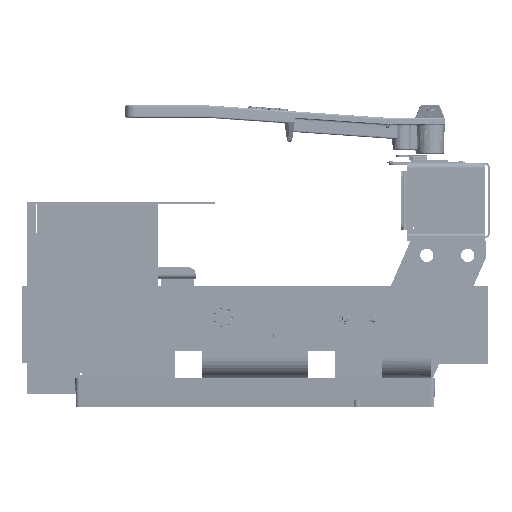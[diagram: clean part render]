
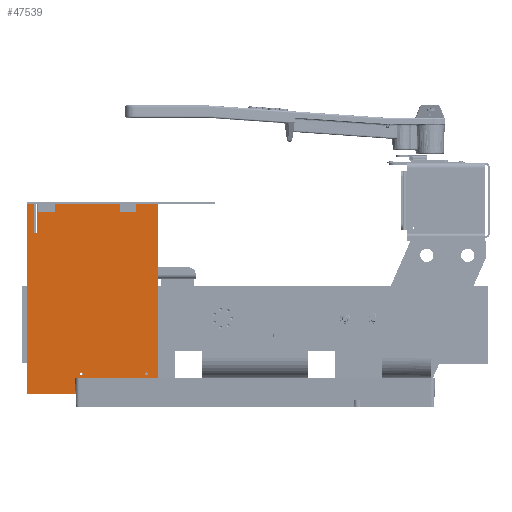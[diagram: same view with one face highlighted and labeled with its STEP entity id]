
A CAD part, left-side view. The second image highlights one B-rep face of the part: STEP entity #47539.
In plain terms, the highlighted planar face has unit normal (-1, 0, 0) as drawn and (0, 0, -1) by its records, which use the part's own axes.
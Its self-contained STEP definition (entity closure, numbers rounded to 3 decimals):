
#2664=FACE_BOUND('',#10718,.T.);
#2665=FACE_BOUND('',#10719,.T.);
#2666=FACE_BOUND('',#10720,.T.);
#2667=FACE_BOUND('',#10721,.T.);
#4481=CIRCLE('',#52986,0.097);
#4483=CIRCLE('',#52989,0.097);
#4485=CIRCLE('',#52992,0.097);
#4487=CIRCLE('',#52995,0.097);
#7538=FACE_OUTER_BOUND('',#10717,.T.);
#10717=EDGE_LOOP('',(#39821,#39822,#39823,#39824,#39825,#39826,#39827,#39828,
#39829,#39830,#39831,#39832));
#10718=EDGE_LOOP('',(#39833));
#10719=EDGE_LOOP('',(#39834));
#10720=EDGE_LOOP('',(#39835));
#10721=EDGE_LOOP('',(#39836));
#14510=LINE('',#78425,#18437);
#14514=LINE('',#78433,#18441);
#14517=LINE('',#78439,#18444);
#14520=LINE('',#78445,#18447);
#14523=LINE('',#78451,#18450);
#14526=LINE('',#78457,#18453);
#14529=LINE('',#78463,#18456);
#14532=LINE('',#78469,#18459);
#14535=LINE('',#78475,#18462);
#14538=LINE('',#78481,#18465);
#14541=LINE('',#78487,#18468);
#14544=LINE('',#78492,#18471);
#18437=VECTOR('',#64202,0.394);
#18441=VECTOR('',#64208,0.394);
#18444=VECTOR('',#64213,0.394);
#18447=VECTOR('',#64218,0.394);
#18450=VECTOR('',#64223,0.394);
#18453=VECTOR('',#64228,0.394);
#18456=VECTOR('',#64233,0.394);
#18459=VECTOR('',#64238,0.394);
#18462=VECTOR('',#64243,0.394);
#18465=VECTOR('',#64248,0.394);
#18468=VECTOR('',#64253,0.394);
#18471=VECTOR('',#64258,0.394);
#22595=VERTEX_POINT('',#78399);
#22597=VERTEX_POINT('',#78405);
#22599=VERTEX_POINT('',#78411);
#22601=VERTEX_POINT('',#78417);
#22603=VERTEX_POINT('',#78423);
#22604=VERTEX_POINT('',#78424);
#22607=VERTEX_POINT('',#78432);
#22609=VERTEX_POINT('',#78438);
#22611=VERTEX_POINT('',#78444);
#22613=VERTEX_POINT('',#78450);
#22615=VERTEX_POINT('',#78456);
#22617=VERTEX_POINT('',#78462);
#22619=VERTEX_POINT('',#78468);
#22621=VERTEX_POINT('',#78474);
#22623=VERTEX_POINT('',#78480);
#22625=VERTEX_POINT('',#78486);
#28536=EDGE_CURVE('',#22595,#22595,#4481,.T.);
#28539=EDGE_CURVE('',#22597,#22597,#4483,.T.);
#28542=EDGE_CURVE('',#22599,#22599,#4485,.T.);
#28545=EDGE_CURVE('',#22601,#22601,#4487,.T.);
#28548=EDGE_CURVE('',#22603,#22604,#14510,.T.);
#28552=EDGE_CURVE('',#22607,#22603,#14514,.T.);
#28555=EDGE_CURVE('',#22609,#22607,#14517,.T.);
#28558=EDGE_CURVE('',#22611,#22609,#14520,.T.);
#28561=EDGE_CURVE('',#22613,#22611,#14523,.T.);
#28564=EDGE_CURVE('',#22615,#22613,#14526,.T.);
#28567=EDGE_CURVE('',#22617,#22615,#14529,.T.);
#28570=EDGE_CURVE('',#22619,#22617,#14532,.T.);
#28573=EDGE_CURVE('',#22621,#22619,#14535,.T.);
#28576=EDGE_CURVE('',#22623,#22621,#14538,.T.);
#28579=EDGE_CURVE('',#22625,#22623,#14541,.T.);
#28582=EDGE_CURVE('',#22604,#22625,#14544,.T.);
#39821=ORIENTED_EDGE('',*,*,#28582,.F.);
#39822=ORIENTED_EDGE('',*,*,#28548,.F.);
#39823=ORIENTED_EDGE('',*,*,#28552,.F.);
#39824=ORIENTED_EDGE('',*,*,#28555,.F.);
#39825=ORIENTED_EDGE('',*,*,#28558,.F.);
#39826=ORIENTED_EDGE('',*,*,#28561,.F.);
#39827=ORIENTED_EDGE('',*,*,#28564,.F.);
#39828=ORIENTED_EDGE('',*,*,#28567,.F.);
#39829=ORIENTED_EDGE('',*,*,#28570,.F.);
#39830=ORIENTED_EDGE('',*,*,#28573,.F.);
#39831=ORIENTED_EDGE('',*,*,#28576,.F.);
#39832=ORIENTED_EDGE('',*,*,#28579,.F.);
#39833=ORIENTED_EDGE('',*,*,#28536,.T.);
#39834=ORIENTED_EDGE('',*,*,#28539,.T.);
#39835=ORIENTED_EDGE('',*,*,#28542,.T.);
#39836=ORIENTED_EDGE('',*,*,#28545,.T.);
#45396=PLANE('',#53010);
#47539=ADVANCED_FACE('',(#7538,#2664,#2665,#2666,#2667),#45396,.F.);
#52986=AXIS2_PLACEMENT_3D('',#78400,#64174,#64175);
#52989=AXIS2_PLACEMENT_3D('',#78406,#64181,#64182);
#52992=AXIS2_PLACEMENT_3D('',#78412,#64188,#64189);
#52995=AXIS2_PLACEMENT_3D('',#78418,#64195,#64196);
#53010=AXIS2_PLACEMENT_3D('',#78495,#64262,#64263);
#64174=DIRECTION('center_axis',(0.,0.,1.));
#64175=DIRECTION('ref_axis',(-1.,0.,0.));
#64181=DIRECTION('center_axis',(0.,0.,1.));
#64182=DIRECTION('ref_axis',(-1.,0.,0.));
#64188=DIRECTION('center_axis',(0.,0.,1.));
#64189=DIRECTION('ref_axis',(-1.,0.,0.));
#64195=DIRECTION('center_axis',(0.,0.,1.));
#64196=DIRECTION('ref_axis',(-1.,0.,0.));
#64202=DIRECTION('',(1.,0.,0.));
#64208=DIRECTION('',(0.,1.,0.));
#64213=DIRECTION('',(1.,0.,0.));
#64218=DIRECTION('',(0.,-1.,0.));
#64223=DIRECTION('',(-1.,0.,0.));
#64228=DIRECTION('',(0.,-1.,0.));
#64233=DIRECTION('',(1.,0.,0.));
#64238=DIRECTION('',(0.,-1.,0.));
#64243=DIRECTION('',(-1.,0.,0.));
#64248=DIRECTION('',(0.,1.,0.));
#64253=DIRECTION('',(1.,0.,0.));
#64258=DIRECTION('',(0.,-1.,0.));
#64262=DIRECTION('center_axis',(0.,0.,1.));
#64263=DIRECTION('ref_axis',(1.,0.,0.));
#78399=CARTESIAN_POINT('',(0.347,2.,0.));
#78400=CARTESIAN_POINT('Origin',(0.25,2.,0.));
#78405=CARTESIAN_POINT('',(0.347,7.,0.));
#78406=CARTESIAN_POINT('Origin',(0.25,7.,0.));
#78411=CARTESIAN_POINT('',(10.472,0.688,0.));
#78412=CARTESIAN_POINT('Origin',(10.375,0.688,0.));
#78417=CARTESIAN_POINT('',(10.472,4.688,0.));
#78418=CARTESIAN_POINT('Origin',(10.375,4.688,0.));
#78423=CARTESIAN_POINT('',(10.625,5.094,0.));
#78424=CARTESIAN_POINT('',(11.156,5.094,0.));
#78425=CARTESIAN_POINT('',(10.625,5.094,0.));
#78432=CARTESIAN_POINT('',(10.625,0.,0.));
#78433=CARTESIAN_POINT('',(10.625,0.,0.));
#78438=CARTESIAN_POINT('',(0.,0.,0.));
#78439=CARTESIAN_POINT('',(0.,0.,0.));
#78444=CARTESIAN_POINT('',(0.,7.422,0.));
#78445=CARTESIAN_POINT('',(0.,7.422,0.));
#78450=CARTESIAN_POINT('',(1.75,7.422,0.));
#78451=CARTESIAN_POINT('',(1.75,7.422,0.));
#78456=CARTESIAN_POINT('',(1.75,7.578,0.));
#78457=CARTESIAN_POINT('',(1.75,7.578,0.));
#78462=CARTESIAN_POINT('',(0.,7.578,0.));
#78463=CARTESIAN_POINT('',(0.,7.578,0.));
#78468=CARTESIAN_POINT('',(0.,8.,0.));
#78469=CARTESIAN_POINT('',(0.,8.,0.));
#78474=CARTESIAN_POINT('',(11.625,8.,0.));
#78475=CARTESIAN_POINT('',(11.625,8.,0.));
#78480=CARTESIAN_POINT('',(11.625,4.719,0.));
#78481=CARTESIAN_POINT('',(11.625,4.719,0.));
#78486=CARTESIAN_POINT('',(11.156,4.719,0.));
#78487=CARTESIAN_POINT('',(11.156,4.719,0.));
#78492=CARTESIAN_POINT('',(11.156,5.094,0.));
#78495=CARTESIAN_POINT('Origin',(5.401,4.41,0.));
